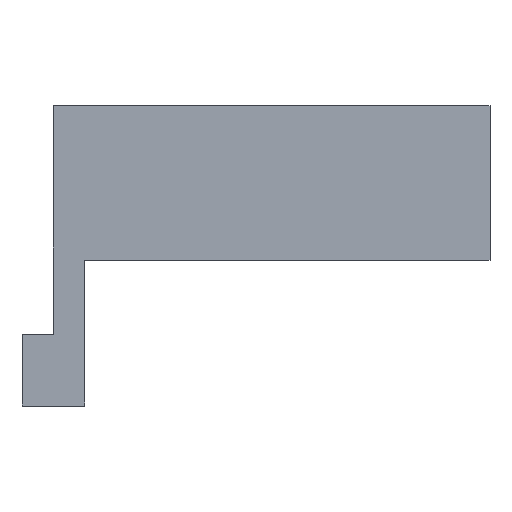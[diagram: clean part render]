
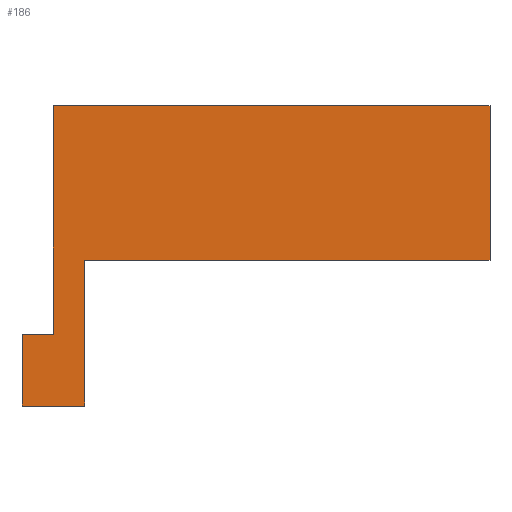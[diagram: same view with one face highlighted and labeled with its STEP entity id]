
A CAD part, top view. The second image highlights one B-rep face of the part: STEP entity #186.
In plain terms, the highlighted planar face has unit normal (0, 0, 1).
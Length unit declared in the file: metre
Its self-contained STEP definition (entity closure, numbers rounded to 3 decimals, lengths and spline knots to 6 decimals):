
#44=ORIENTED_EDGE('',*,*,#62,.T.);
#45=ORIENTED_EDGE('',*,*,#66,.F.);
#46=ORIENTED_EDGE('',*,*,#69,.F.);
#47=ORIENTED_EDGE('',*,*,#72,.T.);
#48=ORIENTED_EDGE('',*,*,#75,.T.);
#49=ORIENTED_EDGE('',*,*,#78,.F.);
#50=ORIENTED_EDGE('',*,*,#81,.T.);
#51=ORIENTED_EDGE('',*,*,#83,.T.);
#62=EDGE_CURVE('',#87,#86,#102,.T.);
#66=EDGE_CURVE('',#89,#86,#106,.T.);
#69=EDGE_CURVE('',#91,#89,#109,.T.);
#72=EDGE_CURVE('',#91,#93,#112,.T.);
#75=EDGE_CURVE('',#93,#95,#115,.T.);
#78=EDGE_CURVE('',#97,#95,#118,.T.);
#81=EDGE_CURVE('',#97,#99,#121,.T.);
#83=EDGE_CURVE('',#99,#87,#123,.T.);
#86=VERTEX_POINT('',#263);
#87=VERTEX_POINT('',#265);
#89=VERTEX_POINT('',#271);
#91=VERTEX_POINT('',#277);
#93=VERTEX_POINT('',#283);
#95=VERTEX_POINT('',#289);
#97=VERTEX_POINT('',#295);
#99=VERTEX_POINT('',#301);
#102=LINE('',#264,#126);
#106=LINE('',#272,#130);
#109=LINE('',#278,#133);
#112=LINE('',#284,#136);
#115=LINE('',#290,#139);
#118=LINE('',#296,#142);
#121=LINE('',#302,#145);
#123=LINE('',#305,#147);
#126=VECTOR('',#217,1.);
#130=VECTOR('',#223,1.);
#133=VECTOR('',#228,1.);
#136=VECTOR('',#233,1.);
#139=VECTOR('',#238,1.);
#142=VECTOR('',#243,1.);
#145=VECTOR('',#248,1.);
#147=VECTOR('',#252,1.);
#156=EDGE_LOOP('',(#44,#45,#46,#47,#48,#49,#50,#51));
#166=FACE_BOUND('',#156,.T.);
#176=PLANE('',#209);
#186=ADVANCED_FACE('',(#166),#176,.T.);
#209=AXIS2_PLACEMENT_3D('',#306,#253,#254);
#217=DIRECTION('',(-1.,0.,0.));
#223=DIRECTION('',(0.,1.,0.));
#228=DIRECTION('',(1.,0.,0.));
#233=DIRECTION('',(0.,-1.,0.));
#238=DIRECTION('',(1.,0.,0.));
#243=DIRECTION('',(0.,-1.,0.));
#248=DIRECTION('',(1.,0.,0.));
#252=DIRECTION('',(0.,1.,0.));
#253=DIRECTION('',(0.,0.,1.));
#254=DIRECTION('',(1.,0.,0.));
#263=CARTESIAN_POINT('',(0.0359,0.05735,0.0169));
#264=CARTESIAN_POINT('',(0.046375,0.05735,0.0169));
#265=CARTESIAN_POINT('',(0.05685,0.05735,0.0169));
#271=CARTESIAN_POINT('',(0.0359,0.0464,0.0169));
#272=CARTESIAN_POINT('',(0.0359,0.051875,0.0169));
#277=CARTESIAN_POINT('',(0.0344,0.0464,0.0169));
#278=CARTESIAN_POINT('',(0.03515,0.0464,0.0169));
#283=CARTESIAN_POINT('',(0.0344,0.04295,0.0169));
#284=CARTESIAN_POINT('',(0.0344,0.05015,0.0169));
#289=CARTESIAN_POINT('',(0.0374,0.04295,0.0169));
#290=CARTESIAN_POINT('',(0.0359,0.04295,0.0169));
#295=CARTESIAN_POINT('',(0.0374,0.04995,0.0169));
#296=CARTESIAN_POINT('',(0.0374,0.04615,0.0169));
#301=CARTESIAN_POINT('',(0.05685,0.04995,0.0169));
#302=CARTESIAN_POINT('',(0.047125,0.04995,0.0169));
#305=CARTESIAN_POINT('',(0.05685,0.05365,0.0169));
#306=CARTESIAN_POINT('',(0.045625,0.05015,0.0169));
